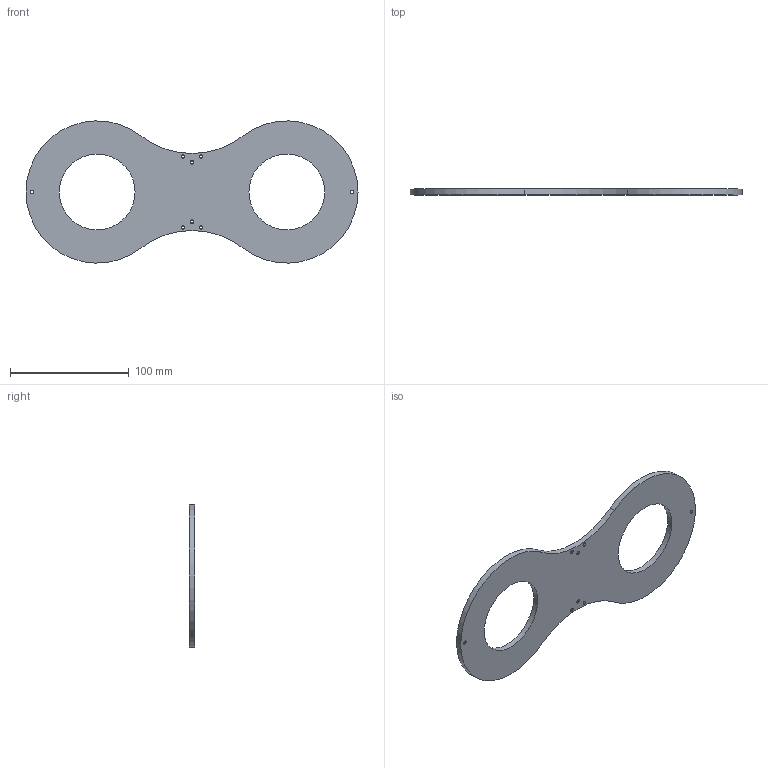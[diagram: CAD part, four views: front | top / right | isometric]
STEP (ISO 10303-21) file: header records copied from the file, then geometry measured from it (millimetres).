
FILE_DESCRIPTION((''),'2;1');
FILE_NAME('ART2BODYCOVER_V-1','2022-08-24T09:23:32',('domen.bizjak'),('Audax d.o.o.'),'CREO PARAMETRIC BY PTC INC, 2021184','CREO PARAMETRIC BY PTC INC, 2021184','');
FILE_SCHEMA(('AP242_MANAGED_MODEL_BASED_3D_ENGINEERING_MIM_LF { 1 0 10303 442 1 1 4 }'));
Length unit declared in the file: millimetre
Products named in the file (1): ART2BODYCOVER_V-1
Bounding box: 280 x 5 x 119.96 mm (x, y, z)
Volume: 69417.2 mm3; surface area: 48796.7 mm2
Topology: 1 solids, 9 shells, 66 faces, 213 edges, 170 vertices
Faces by surface type: cylinder 54, plane 8, cone 4
Entity records: 4517 total; most frequent: DIRECTION 557, CARTESIAN_POINT 443, ORIENTED_EDGE 320, COLOUR_RGB 320, AXIS2_PLACEMENT_3D 237, PRESENTATION_STYLE_ASSIGNMENT 229, STYLED_ITEM 229, CURVE_STYLE 214
